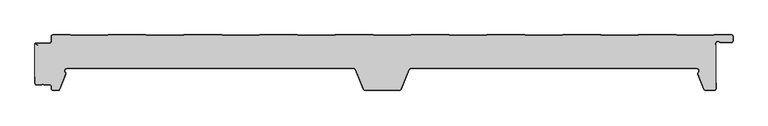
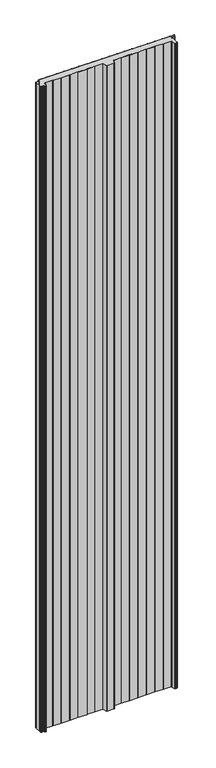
"""IFC4 building model written with IfcOpenShell, lengths in millimetres: plate geometry, ACH_Panel-Cubierta-3-Grecas-P3G : ACH_P3G_3-Rib-Roof-Panel_50M."""

from ifc_helpers import new_model, si_unit, point, frame_2d, origin, origin_with_axes, place, context, project, spatial, polyline, circle_curve, trimmed, segment, composite_curve, outline, extrude, source, transform, mapped, element, save


def plate_7adaefb9(model_context):
    return source(origin(), model_context, "Body", "SweptSolid", [
        extrude(outline(composite_curve([segment(polyline([(-499.496875, -13.8660254), (-495.496875, -16.1754265), (-495.096875, -15.4826062), (-498.1272598, -13.7330127)]), True, "CONTINUOUS"), segment(trimmed(circle_curve(frame_2d((-497.8772598, -13.3)), 0.5), [point((-498.1272598, -13.7330127))], [point((-497.8772598, -12.8))], False, "CARTESIAN"), True, "CONTINUOUS"), segment(polyline([(-497.8772598, -12.8), (-477.996875, -12.8)]), True, "CONTINUOUS"), segment(trimmed(circle_curve(frame_2d((-477.996875, -10.0)), 2.8), [point((-477.996875, -12.8))], [point((-475.196875, -10.0))], True, "CARTESIAN"), True, "CONTINUOUS"), segment(polyline([(-475.196875, -10.0), (-475.196875, -2.5)]), True, "CONTINUOUS"), segment(trimmed(circle_curve(frame_2d((-473.496875, -2.5)), 1.7), [point((-475.196875, -2.5))], [point((-473.496875, -0.8))], False, "CARTESIAN"), True, "CONTINUOUS"), segment(polyline([(-473.496875, -0.8), (-448.4313592, -0.8), (-447.4338592, -1.4), (-393.4298908, -1.4), (-392.4323908, -0.8), (-337.3213592, -0.8), (-336.3238592, -1.4), (-282.3198908, -1.4), (-281.3223908, -0.8), (-226.2113592, -0.8), (-225.2138592, -1.4), (-171.2098908, -1.4), (-170.2123908, -0.8), (-115.1013592, -0.8), (-114.1038592, -1.4), (-60.0998908, -1.4), (-59.1023908, -0.8), (-3.9913592, -0.8), (-2.9938592, -1.4), (51.0101092, -1.4), (52.0076092, -0.8), (107.1186408, -0.8), (108.1161408, -1.4), (162.1201092, -1.4), (163.1176092, -0.8), (218.2286408, -0.8), (219.2261408, -1.4), (273.2301092, -1.4), (274.2276092, -0.8), (329.3386408, -0.8), (330.3361408, -1.4), (384.3401092, -1.4), (385.3376092, -0.8), (440.4486408, -0.8), (441.4461408, -1.4), (495.4501092, -1.4), (496.4476092, -0.8), (521.503125, -0.8)]), True, "CONTINUOUS"), segment(trimmed(circle_curve(frame_2d((521.503125, -2.5)), 1.7), [point((521.503125, -0.8))], [point((523.203125, -2.5))], False, "CARTESIAN"), True, "CONTINUOUS"), segment(polyline([(523.203125, -2.5), (523.203125, -9.0)]), True, "CONTINUOUS"), segment(trimmed(circle_curve(frame_2d((521.503125, -9.0)), 1.7), [point((523.203125, -9.0))], [point((521.503125, -10.7))], False, "CARTESIAN"), True, "CONTINUOUS"), segment(polyline([(521.503125, -10.7), (505.8568186, -10.7)]), True, "CONTINUOUS"), segment(trimmed(circle_curve(frame_2d((505.8568186, -9.0)), 1.7), [point((505.8568186, -10.7))], [point((504.7323743, -10.275))], False, "CARTESIAN"), True, "CONTINUOUS"), segment(trimmed(circle_curve(frame_2d((501.8881916, -13.5)), 4.3), [point((504.7323743, -10.275))], [point((497.8475134, -12.0293134))], True, "CARTESIAN"), True, "CONTINUOUS"), segment(polyline([(497.8475134, -12.0293134), (497.1006025, -14.0814342)]), True, "CONTINUOUS"), segment(trimmed(circle_curve(frame_2d((495.503125, -13.5)), 1.7), [point((497.1006025, -14.0814342))], [point((495.503125, -15.2))], False, "CARTESIAN"), True, "CONTINUOUS"), segment(polyline([(495.503125, -15.2), (490.503125, -15.2), (490.503125, -16.0), (495.503125, -16.0)]), True, "CONTINUOUS"), segment(trimmed(circle_curve(frame_2d((495.503125, -13.5)), 2.5), [point((495.503125, -16.0))], [point((497.8523566, -14.3550504))], True, "CARTESIAN"), True, "CONTINUOUS"), segment(polyline([(497.8523566, -14.3550504), (498.203125, -13.391322), (498.203125, -79.5)]), True, "CONTINUOUS"), segment(trimmed(circle_curve(frame_2d((496.503125, -79.5)), 1.7), [point((498.203125, -79.5))], [point((496.503125, -81.2))], False, "CARTESIAN"), True, "CONTINUOUS"), segment(polyline([(496.503125, -81.2), (483.6093963, -81.2)]), True, "CONTINUOUS"), segment(trimmed(circle_curve(frame_2d((483.6093963, -79.5)), 1.7), [point((483.6093963, -81.2))], [point((482.0331837, -80.1368312))], False, "CARTESIAN"), True, "CONTINUOUS"), segment(polyline([(482.0331837, -80.1368312), (473.0241766, -57.838756)]), True, "CONTINUOUS"), segment(trimmed(circle_curve(frame_2d((474.6003891, -57.2019248)), 1.7), [point((473.0241766, -57.838756))], [point((473.4430606, -55.9566976))], False, "CARTESIAN"), True, "CONTINUOUS"), segment(trimmed(circle_curve(frame_2d((470.7880129, -53.1)), 3.9), [point((473.4430606, -55.9566976))], [point((470.7880129, -49.2))], True, "CARTESIAN"), True, "CONTINUOUS"), segment(polyline([(470.7880129, -49.2), (415.2251881, -49.2), (414.2276881, -48.6), (354.7785619, -48.6), (353.7810619, -49.2), (290.2252392, -49.2), (289.2266715, -48.6), (229.7795785, -48.6), (228.7810108, -49.2), (165.225925, -49.2), (164.2273573, -48.6), (104.7788927, -48.6), (103.780325, -49.2), (50.7367047, -49.2)]), True, "CONTINUOUS"), segment(trimmed(circle_curve(frame_2d((50.7367047, -52.0)), 2.8), [point((50.7367047, -49.2))], [point((48.1405899, -50.9511015))], True, "CARTESIAN"), True, "CONTINUOUS"), segment(polyline([(48.1405899, -50.9511015), (36.4751274, -79.8241345)]), True, "CONTINUOUS"), segment(trimmed(circle_curve(frame_2d((34.4353229, -79.0)), 2.2), [point((36.4751274, -79.8241345))], [point((34.4353229, -81.2))], False, "CARTESIAN"), True, "CONTINUOUS"), segment(polyline([(34.4353229, -81.2), (-15.5090729, -81.2)]), True, "CONTINUOUS"), segment(trimmed(circle_curve(frame_2d((-15.5090729, -79.0)), 2.2), [point((-15.5090729, -81.2))], [point((-17.5488774, -79.8241345))], False, "CARTESIAN"), True, "CONTINUOUS"), segment(polyline([(-17.5488774, -79.8241345), (-29.2143399, -50.9511015)]), True, "CONTINUOUS"), segment(trimmed(circle_curve(frame_2d((-31.8104547, -52.0)), 2.8), [point((-29.2143399, -50.9511015))], [point((-31.8104547, -49.2))], True, "CARTESIAN"), True, "CONTINUOUS"), segment(polyline([(-31.8104547, -49.2), (-84.8548119, -49.2), (-85.8523119, -48.6), (-145.3014381, -48.6), (-146.2989381, -49.2), (-209.8548119, -49.2), (-210.8523119, -48.6), (-270.3014381, -48.6), (-271.2989381, -49.2), (-334.8548119, -49.2), (-335.8523119, -48.6), (-395.3011073, -48.6), (-396.299675, -49.2), (-453.2387629, -49.2)]), True, "CONTINUOUS"), segment(trimmed(circle_curve(frame_2d((-453.2387629, -53.1)), 3.9), [point((-453.2387629, -49.2))], [point((-455.8938106, -55.9566976))], True, "CARTESIAN"), True, "CONTINUOUS"), segment(trimmed(circle_curve(frame_2d((-457.0511391, -57.2019248)), 1.7), [point((-455.8938106, -55.9566976))], [point((-455.4749266, -57.838756))], False, "CARTESIAN"), True, "CONTINUOUS"), segment(polyline([(-455.4749266, -57.838756), (-464.4839337, -80.1368312)]), True, "CONTINUOUS"), segment(trimmed(circle_curve(frame_2d((-466.0601463, -79.5)), 1.7), [point((-464.4839337, -80.1368312))], [point((-466.0601463, -81.2))], False, "CARTESIAN"), True, "CONTINUOUS"), segment(polyline([(-466.0601463, -81.2), (-473.496875, -81.2)]), True, "CONTINUOUS"), segment(trimmed(circle_curve(frame_2d((-473.496875, -79.5)), 1.7), [point((-473.496875, -81.2))], [point((-475.196875, -79.5))], False, "CARTESIAN"), True, "CONTINUOUS"), segment(polyline([(-475.196875, -79.5), (-475.196875, -76.0)]), True, "CONTINUOUS"), segment(trimmed(circle_curve(frame_2d((-477.996875, -76.0)), 2.8), [point((-475.196875, -76.0))], [point((-477.996875, -73.2))], True, "CARTESIAN"), True, "CONTINUOUS"), segment(polyline([(-477.996875, -73.2), (-486.5995084, -73.2)]), True, "CONTINUOUS"), segment(trimmed(circle_curve(frame_2d((-488.496875, -74.5)), 2.3), [point((-486.5995084, -73.2))], [point((-490.3942416, -73.2))], True, "CARTESIAN"), True, "CONTINUOUS"), segment(polyline([(-490.3942416, -73.2), (-497.496875, -73.2)]), True, "CONTINUOUS"), segment(trimmed(circle_curve(frame_2d((-497.496875, -71.5)), 1.7), [point((-497.496875, -73.2))], [point((-499.196875, -71.5))], False, "CARTESIAN"), True, "CONTINUOUS"), segment(polyline([(-499.196875, -71.5), (-499.196875, -61.18), (-499.996875, -61.18), (-499.996875, -13.0)]), True, "CONTINUOUS"), segment(trimmed(circle_curve(frame_2d((-498.996875, -13.0)), 1.0), [point((-499.996875, -13.0))], [point((-499.496875, -13.8660254))], True, "CARTESIAN"), True, "CONTINUOUS")], self_intersect=False)), origin_with_axes(), (0.0, 0.0, 1.0), 5000.0),
        extrude(outline(composite_curve([segment(trimmed(circle_curve(frame_2d((-478.0, -10.0)), 2.0), [point((-478.0, -12.0))], [point((-476.0, -10.0))], True, "CARTESIAN"), True, "CONTINUOUS"), segment(polyline([(-476.0, -10.0), (-476.0, -2.5)]), True, "CONTINUOUS"), segment(trimmed(circle_curve(frame_2d((-473.5, -2.5)), 2.5), [point((-476.0, -2.5))], [point((-473.5, 0.0))], False, "CARTESIAN"), True, "CONTINUOUS"), segment(polyline([(-473.5, 0.0), (-448.2124211, 0.0), (-447.2149211, -0.6), (-393.6550789, -0.6), (-392.6575789, 0.0), (-337.1024211, 0.0), (-336.1049211, -0.6), (-282.5450789, -0.6), (-281.5475789, 0.0), (-225.9924211, 0.0), (-224.9949211, -0.6), (-171.4350789, -0.6), (-170.4375789, 0.0), (-114.8824211, 0.0), (-113.8849211, -0.6), (-60.3250789, -0.6), (-59.3275789, 0.0), (-3.7724211, 0.0), (-2.7749211, -0.6), (50.7849211, -0.6), (51.7824211, 0.0), (107.3375789, 0.0), (108.3350789, -0.6), (161.8949211, -0.6), (162.8924211, 0.0), (218.4475789, 0.0), (219.4450789, -0.6), (273.0049211, -0.6), (274.0024211, 0.0), (329.5575789, 0.0), (330.5550789, -0.6), (384.1149211, -0.6), (385.1124211, 0.0), (440.6675789, 0.0), (441.6650789, -0.6), (495.2249211, -0.6), (496.2224211, 0.0), (521.5, 0.0)]), True, "CONTINUOUS"), segment(trimmed(circle_curve(frame_2d((521.5, -2.5)), 2.5), [point((521.5, 0.0))], [point((524.0, -2.5))], False, "CARTESIAN"), True, "CONTINUOUS"), segment(polyline([(524.0, -2.5), (524.0, -9.0)]), True, "CONTINUOUS"), segment(trimmed(circle_curve(frame_2d((521.5, -9.0)), 2.5), [point((524.0, -9.0))], [point((521.5, -11.5))], False, "CARTESIAN"), True, "CONTINUOUS"), segment(polyline([(521.5, -11.5), (505.8536936, -11.5)]), True, "CONTINUOUS"), segment(trimmed(circle_curve(frame_2d((505.8536936, -9.0)), 2.5), [point((505.8536936, -11.5))], [point((504.200099, -10.875))], False, "CARTESIAN"), True, "CONTINUOUS"), segment(trimmed(circle_curve(frame_2d((501.8850666, -13.5)), 3.5), [point((504.200099, -10.875))], [point((498.5961425, -12.3029295))], True, "CARTESIAN"), True, "CONTINUOUS"), segment(polyline([(498.5961425, -12.3029295), (497.8492316, -14.3550504)]), True, "CONTINUOUS"), segment(trimmed(circle_curve(frame_2d((495.5, -13.5)), 2.5), [point((497.8492316, -14.3550504))], [point((495.5, -16.0))], False, "CARTESIAN"), True, "CONTINUOUS"), segment(polyline([(495.5, -16.0), (490.5, -16.0), (490.5, -15.2), (495.5, -15.2)]), True, "CONTINUOUS"), segment(trimmed(circle_curve(frame_2d((495.5, -13.5)), 1.7), [point((495.5, -15.2))], [point((497.0974775, -14.0814342))], True, "CARTESIAN"), True, "CONTINUOUS"), segment(polyline([(497.0974775, -14.0814342), (497.8443884, -12.0293134)]), True, "CONTINUOUS"), segment(trimmed(circle_curve(frame_2d((501.8850666, -13.5)), 4.3), [point((497.8443884, -12.0293134))], [point((504.7292493, -10.275))], False, "CARTESIAN"), True, "CONTINUOUS"), segment(trimmed(circle_curve(frame_2d((505.8536936, -9.0)), 1.7), [point((504.7292493, -10.275))], [point((505.8536936, -10.7))], True, "CARTESIAN"), True, "CONTINUOUS"), segment(polyline([(505.8536936, -10.7), (521.5, -10.7)]), True, "CONTINUOUS"), segment(trimmed(circle_curve(frame_2d((521.5, -9.0)), 1.7), [point((521.5, -10.7))], [point((523.2, -9.0))], True, "CARTESIAN"), True, "CONTINUOUS"), segment(polyline([(523.2, -9.0), (523.2, -2.5)]), True, "CONTINUOUS"), segment(trimmed(circle_curve(frame_2d((521.5, -2.5)), 1.7), [point((523.2, -2.5))], [point((521.5, -0.8))], True, "CARTESIAN"), True, "CONTINUOUS"), segment(polyline([(521.5, -0.8), (496.4444842, -0.8), (495.4469842, -1.4), (441.4430158, -1.4), (440.4455158, -0.8), (385.3344842, -0.8), (384.3369842, -1.4), (330.3330158, -1.4), (329.3355158, -0.8), (274.2244842, -0.8), (273.2269842, -1.4), (219.2230158, -1.4), (218.2255158, -0.8), (163.1144842, -0.8), (162.1169842, -1.4), (108.1130158, -1.4), (107.1155158, -0.8), (52.0044842, -0.8), (51.0069842, -1.4), (-2.9969842, -1.4), (-3.9944842, -0.8), (-59.1055158, -0.8), (-60.1030158, -1.4), (-114.1069842, -1.4), (-115.1044842, -0.8), (-170.2155158, -0.8), (-171.2130158, -1.4), (-225.2169842, -1.4), (-226.2144842, -0.8), (-281.3255158, -0.8), (-282.3230158, -1.4), (-336.3269842, -1.4), (-337.3244842, -0.8), (-392.4355158, -0.8), (-393.4330158, -1.4), (-447.4369842, -1.4), (-448.4344842, -0.8), (-473.5, -0.8)]), True, "CONTINUOUS"), segment(trimmed(circle_curve(frame_2d((-473.5, -2.5)), 1.7), [point((-473.5, -0.8))], [point((-475.2, -2.5))], True, "CARTESIAN"), True, "CONTINUOUS"), segment(polyline([(-475.2, -2.5), (-475.2, -10.0)]), True, "CONTINUOUS"), segment(trimmed(circle_curve(frame_2d((-478.0, -10.0)), 2.8), [point((-475.2, -10.0))], [point((-478.0, -12.8))], False, "CARTESIAN"), True, "CONTINUOUS"), segment(polyline([(-478.0, -12.8), (-497.8803848, -12.8)]), True, "CONTINUOUS"), segment(trimmed(circle_curve(frame_2d((-497.8803848, -13.3)), 0.5), [point((-497.8803848, -12.8))], [point((-498.1303848, -13.7330127))], True, "CARTESIAN"), True, "CONTINUOUS"), segment(polyline([(-498.1303848, -13.7330127), (-495.1, -15.4826062), (-495.5, -16.1754265), (-499.5, -13.8660254)]), True, "CONTINUOUS"), segment(trimmed(circle_curve(frame_2d((-499.0, -13.0)), 1.0), [point((-499.5, -13.8660254))], [point((-499.0, -12.0))], False, "CARTESIAN"), True, "CONTINUOUS"), segment(polyline([(-499.0, -12.0), (-478.0, -12.0)]), True, "CONTINUOUS")], self_intersect=False)), origin_with_axes(), (0.0, 0.0, 1.0), 5000.0),
        extrude(outline(composite_curve([segment(polyline([(-500.0, -71.5), (-500.0, -61.18), (-499.2, -61.18), (-499.2, -71.5)]), True, "CONTINUOUS"), segment(trimmed(circle_curve(frame_2d((-497.5, -71.5)), 1.7), [point((-499.2, -71.5))], [point((-497.5, -73.2))], True, "CARTESIAN"), True, "CONTINUOUS"), segment(polyline([(-497.5, -73.2), (-490.3973666, -73.2)]), True, "CONTINUOUS"), segment(trimmed(circle_curve(frame_2d((-488.5, -74.5)), 2.3), [point((-490.3973666, -73.2))], [point((-486.6026334, -73.2))], False, "CARTESIAN"), True, "CONTINUOUS"), segment(polyline([(-486.6026334, -73.2), (-478.0, -73.2)]), True, "CONTINUOUS"), segment(trimmed(circle_curve(frame_2d((-478.0, -76.0)), 2.8), [point((-478.0, -73.2))], [point((-475.2, -76.0))], False, "CARTESIAN"), True, "CONTINUOUS"), segment(polyline([(-475.2, -76.0), (-475.2, -79.5)]), True, "CONTINUOUS"), segment(trimmed(circle_curve(frame_2d((-473.5, -79.5)), 1.7), [point((-475.2, -79.5))], [point((-473.5, -81.2))], True, "CARTESIAN"), True, "CONTINUOUS"), segment(polyline([(-473.5, -81.2), (-466.0632713, -81.2)]), True, "CONTINUOUS"), segment(trimmed(circle_curve(frame_2d((-466.0632713, -79.5)), 1.7), [point((-466.0632713, -81.2))], [point((-464.4870587, -80.1368312))], True, "CARTESIAN"), True, "CONTINUOUS"), segment(polyline([(-464.4870587, -80.1368312), (-455.4780516, -57.838756)]), True, "CONTINUOUS"), segment(trimmed(circle_curve(frame_2d((-457.0542641, -57.2019248)), 1.7), [point((-455.4780516, -57.838756))], [point((-455.8969356, -55.9566976))], True, "CARTESIAN"), True, "CONTINUOUS"), segment(trimmed(circle_curve(frame_2d((-453.2418879, -53.1)), 3.9), [point((-455.8969356, -55.9566976))], [point((-453.2418879, -49.2))], False, "CARTESIAN"), True, "CONTINUOUS"), segment(polyline([(-453.2418879, -49.2), (-396.3028, -49.2), (-395.3042323, -48.6), (-335.8554369, -48.6), (-334.8579369, -49.2), (-271.3020631, -49.2), (-270.3045631, -48.6), (-210.8554369, -48.6), (-209.8579369, -49.2), (-146.3020631, -49.2), (-145.3045631, -48.6), (-85.8554369, -48.6), (-84.8579369, -49.2), (-31.8135797, -49.2)]), True, "CONTINUOUS"), segment(trimmed(circle_curve(frame_2d((-31.8135797, -52.0)), 2.8), [point((-31.8135797, -49.2))], [point((-29.2174649, -50.9511015))], False, "CARTESIAN"), True, "CONTINUOUS"), segment(polyline([(-29.2174649, -50.9511015), (-17.5520024, -79.8241345)]), True, "CONTINUOUS"), segment(trimmed(circle_curve(frame_2d((-15.5121979, -79.0)), 2.2), [point((-17.5520024, -79.8241345))], [point((-15.5121979, -81.2))], True, "CARTESIAN"), True, "CONTINUOUS"), segment(polyline([(-15.5121979, -81.2), (34.4321979, -81.2)]), True, "CONTINUOUS"), segment(trimmed(circle_curve(frame_2d((34.4321979, -79.0)), 2.2), [point((34.4321979, -81.2))], [point((36.4720024, -79.8241345))], True, "CARTESIAN"), True, "CONTINUOUS"), segment(polyline([(36.4720024, -79.8241345), (48.1374649, -50.9511015)]), True, "CONTINUOUS"), segment(trimmed(circle_curve(frame_2d((50.7335797, -52.0)), 2.8), [point((48.1374649, -50.9511015))], [point((50.7335797, -49.2))], False, "CARTESIAN"), True, "CONTINUOUS"), segment(polyline([(50.7335797, -49.2), (103.7772, -49.2), (104.7757677, -48.6), (164.2242323, -48.6), (165.2228, -49.2), (228.7778858, -49.2), (229.7764535, -48.6), (289.2235465, -48.6), (290.2221142, -49.2), (353.7779369, -49.2), (354.7754369, -48.6), (414.2245631, -48.6), (415.2220631, -49.2), (470.7848879, -49.2)]), True, "CONTINUOUS"), segment(trimmed(circle_curve(frame_2d((470.7848879, -53.1)), 3.9), [point((470.7848879, -49.2))], [point((473.4399356, -55.9566976))], False, "CARTESIAN"), True, "CONTINUOUS"), segment(trimmed(circle_curve(frame_2d((474.5972641, -57.2019248)), 1.7), [point((473.4399356, -55.9566976))], [point((473.0210516, -57.838756))], True, "CARTESIAN"), True, "CONTINUOUS"), segment(polyline([(473.0210516, -57.838756), (482.0300587, -80.1368312)]), True, "CONTINUOUS"), segment(trimmed(circle_curve(frame_2d((483.6062713, -79.5)), 1.7), [point((482.0300587, -80.1368312))], [point((483.6062713, -81.2))], True, "CARTESIAN"), True, "CONTINUOUS"), segment(polyline([(483.6062713, -81.2), (496.5, -81.2)]), True, "CONTINUOUS"), segment(trimmed(circle_curve(frame_2d((496.5, -79.5)), 1.7), [point((496.5, -81.2))], [point((498.2, -79.5))], True, "CARTESIAN"), True, "CONTINUOUS"), segment(polyline([(498.2, -79.5), (498.2, -71.0), (499.0, -71.0), (499.0, -79.5)]), True, "CONTINUOUS"), segment(trimmed(circle_curve(frame_2d((496.5, -79.5)), 2.5), [point((499.0, -79.5))], [point((496.5, -82.0))], False, "CARTESIAN"), True, "CONTINUOUS"), segment(polyline([(496.5, -82.0), (483.6062713, -82.0)]), True, "CONTINUOUS"), segment(trimmed(circle_curve(frame_2d((483.6062713, -79.5)), 2.5), [point((483.6062713, -82.0))], [point((481.2883117, -80.4365165))], False, "CARTESIAN"), True, "CONTINUOUS"), segment(polyline([(481.2883117, -80.4365165), (472.2793045, -58.1384413)]), True, "CONTINUOUS"), segment(trimmed(circle_curve(frame_2d((474.5972641, -57.2019248)), 2.5), [point((472.2793045, -58.1384413))], [point((472.8953104, -55.3707084))], False, "CARTESIAN"), True, "CONTINUOUS"), segment(trimmed(circle_curve(frame_2d((470.7848879, -53.1)), 3.1), [point((472.8953104, -55.3707084))], [point((470.7848879, -50.0))], True, "CARTESIAN"), True, "CONTINUOUS"), segment(polyline([(470.7848879, -50.0), (415.0, -50.0), (414.0025, -49.4), (354.9975, -49.4), (354.0, -50.0), (290.0002546, -50.0), (289.0016869, -49.4), (229.9983131, -49.4), (228.9997454, -50.0), (165.0009404, -50.0), (164.0023727, -49.4), (104.9976273, -49.4), (103.9990596, -50.0), (50.7335797, -50.0)]), True, "CONTINUOUS"), segment(trimmed(circle_curve(frame_2d((50.7335797, -52.0)), 2.0), [point((50.7335797, -50.0))], [point((48.879212, -51.2507868))], True, "CARTESIAN"), True, "CONTINUOUS"), segment(polyline([(48.879212, -51.2507868), (37.2137494, -80.1238198)]), True, "CONTINUOUS"), segment(trimmed(circle_curve(frame_2d((34.4321979, -79.0)), 3.0), [point((37.2137494, -80.1238198))], [point((34.4321979, -82.0))], False, "CARTESIAN"), True, "CONTINUOUS"), segment(polyline([(34.4321979, -82.0), (-15.5121979, -82.0)]), True, "CONTINUOUS"), segment(trimmed(circle_curve(frame_2d((-15.5121979, -79.0)), 3.0), [point((-15.5121979, -82.0))], [point((-18.2937494, -80.1238198))], False, "CARTESIAN"), True, "CONTINUOUS"), segment(polyline([(-18.2937494, -80.1238198), (-29.959212, -51.2507868)]), True, "CONTINUOUS"), segment(trimmed(circle_curve(frame_2d((-31.8135797, -52.0)), 2.0), [point((-29.959212, -51.2507868))], [point((-31.8135797, -50.0))], True, "CARTESIAN"), True, "CONTINUOUS"), segment(polyline([(-31.8135797, -50.0), (-85.08, -50.0), (-86.0775, -49.4), (-145.0825, -49.4), (-146.08, -50.0), (-210.08, -50.0), (-211.0775, -49.4), (-270.0825, -49.4), (-271.08, -50.0), (-335.08, -50.0), (-336.0775, -49.4), (-395.0823727, -49.4), (-396.0809404, -50.0), (-453.2418879, -50.0)]), True, "CONTINUOUS"), segment(trimmed(circle_curve(frame_2d((-453.2418879, -53.1)), 3.1), [point((-453.2418879, -50.0))], [point((-455.3523104, -55.3707084))], True, "CARTESIAN"), True, "CONTINUOUS"), segment(trimmed(circle_curve(frame_2d((-457.0542641, -57.2019248)), 2.5), [point((-455.3523104, -55.3707084))], [point((-454.7363045, -58.1384413))], False, "CARTESIAN"), True, "CONTINUOUS"), segment(polyline([(-454.7363045, -58.1384413), (-463.7453117, -80.4365165)]), True, "CONTINUOUS"), segment(trimmed(circle_curve(frame_2d((-466.0632713, -79.5)), 2.5), [point((-463.7453117, -80.4365165))], [point((-466.0632713, -82.0))], False, "CARTESIAN"), True, "CONTINUOUS"), segment(polyline([(-466.0632713, -82.0), (-473.5, -82.0)]), True, "CONTINUOUS"), segment(trimmed(circle_curve(frame_2d((-473.5, -79.5)), 2.5), [point((-473.5, -82.0))], [point((-476.0, -79.5))], False, "CARTESIAN"), True, "CONTINUOUS"), segment(polyline([(-476.0, -79.5), (-476.0, -76.0)]), True, "CONTINUOUS"), segment(trimmed(circle_curve(frame_2d((-478.0, -76.0)), 2.0), [point((-476.0, -76.0))], [point((-478.0, -74.0))], True, "CARTESIAN"), True, "CONTINUOUS"), segment(polyline([(-478.0, -74.0), (-486.263932, -74.0)]), True, "CONTINUOUS"), segment(trimmed(circle_curve(frame_2d((-486.263932, -72.5)), 1.5), [point((-486.263932, -74.0))], [point((-487.381966, -73.5))], False, "CARTESIAN"), True, "CONTINUOUS"), segment(trimmed(circle_curve(frame_2d((-488.5, -74.5)), 1.5), [point((-487.381966, -73.5))], [point((-489.618034, -73.5))], True, "CARTESIAN"), True, "CONTINUOUS"), segment(trimmed(circle_curve(frame_2d((-490.736068, -72.5)), 1.5), [point((-489.618034, -73.5))], [point((-490.736068, -74.0))], False, "CARTESIAN"), True, "CONTINUOUS"), segment(polyline([(-490.736068, -74.0), (-497.5, -74.0)]), True, "CONTINUOUS"), segment(trimmed(circle_curve(frame_2d((-497.5, -71.5)), 2.5), [point((-497.5, -74.0))], [point((-500.0, -71.5))], False, "CARTESIAN"), True, "CONTINUOUS")], self_intersect=False)), origin_with_axes(), (0.0, 0.0, 1.0), 5000.0),
    ])


if __name__ == "__main__":
    model = new_model("IFC4")
    model_context = context("Model", 3, world=origin())
    ifc_project = project(units=[si_unit("LENGTHUNIT", "METRE", prefix="MILLI")], contexts=[model_context])
    site = spatial("IfcSite", under=ifc_project)
    building = spatial("IfcBuilding", under=site)
    placement = place(None, origin())
    plate_shape = plate_7adaefb9(model_context)
    element("IfcPlate", 1, ObjectType="ACH_Panel-Cubierta-3-Grecas-P3G : ACH_P3G_3-Rib-Roof-Panel_50M", at=placement, inside=building, context=model_context, shape_type="MappedRepresentation", body=[
        mapped(plate_shape, transform((0.0, 0.0, 0.0), x_axis=(1.0, 0.0, 0.0), y_axis=(0.0, 1.0, 0.0), z_axis=(0.0, 0.0, 1.0))),
    ])
    save(model, "model.ifc")
